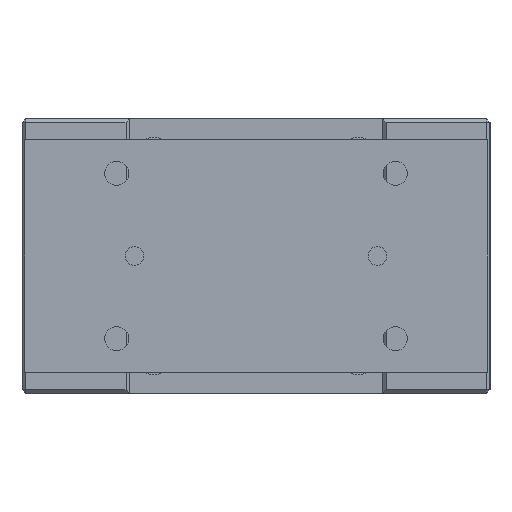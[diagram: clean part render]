
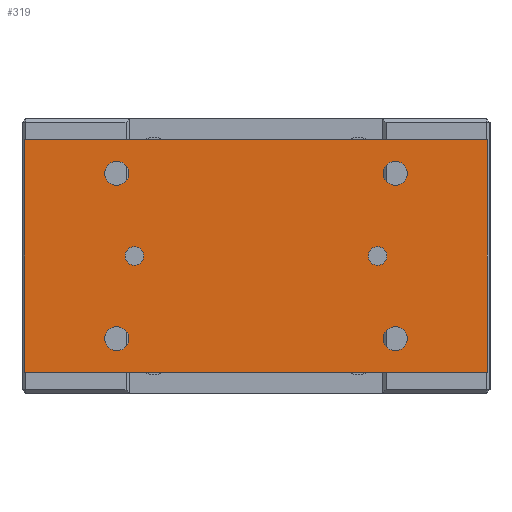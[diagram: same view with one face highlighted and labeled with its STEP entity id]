
A CAD part, left-side view. The second image highlights one B-rep face of the part: STEP entity #319.
In plain terms, the highlighted planar face has unit normal (-1, 0, 0).
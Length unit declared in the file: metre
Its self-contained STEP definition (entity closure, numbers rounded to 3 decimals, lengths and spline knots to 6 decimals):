
#319 = ADVANCED_FACE( '', ( #857, #858, #859, #860, #861, #862, #863 ), #864, .T. );
#857 = FACE_BOUND( '', #1747, .T. );
#858 = FACE_BOUND( '', #1748, .T. );
#859 = FACE_BOUND( '', #1749, .T. );
#860 = FACE_BOUND( '', #1750, .T. );
#861 = FACE_BOUND( '', #1751, .T. );
#862 = FACE_BOUND( '', #1752, .T. );
#863 = FACE_OUTER_BOUND( '', #1753, .T. );
#864 = PLANE( '', #1754 );
#1747 = EDGE_LOOP( '', ( #2711 ) );
#1748 = EDGE_LOOP( '', ( #2712 ) );
#1749 = EDGE_LOOP( '', ( #2713 ) );
#1750 = EDGE_LOOP( '', ( #2714 ) );
#1751 = EDGE_LOOP( '', ( #2715 ) );
#1752 = EDGE_LOOP( '', ( #2716 ) );
#1753 = EDGE_LOOP( '', ( #2717, #2718, #2719, #2720 ) );
#1754 = AXIS2_PLACEMENT_3D( '', #2721, #2722, #2723 );
#2711 = ORIENTED_EDGE( '', *, *, #4377, .F. );
#2712 = ORIENTED_EDGE( '', *, *, #4378, .T. );
#2713 = ORIENTED_EDGE( '', *, *, #4379, .F. );
#2714 = ORIENTED_EDGE( '', *, *, #4380, .F. );
#2715 = ORIENTED_EDGE( '', *, *, #4381, .F. );
#2716 = ORIENTED_EDGE( '', *, *, #4382, .F. );
#2717 = ORIENTED_EDGE( '', *, *, #4383, .T. );
#2718 = ORIENTED_EDGE( '', *, *, #4384, .T. );
#2719 = ORIENTED_EDGE( '', *, *, #4385, .T. );
#2720 = ORIENTED_EDGE( '', *, *, #4386, .T. );
#2721 = CARTESIAN_POINT( '', ( -0.143, -0.1245, -0.0115 ) );
#2722 = DIRECTION( '', ( -1., 0., 0. ) );
#2723 = DIRECTION( '', ( 0., 0., 1. ) );
#4377 = EDGE_CURVE( '', #5086, #5086, #5087, .T. );
#4378 = EDGE_CURVE( '', #5088, #5088, #5089, .T. );
#4379 = EDGE_CURVE( '', #5090, #5090, #5091, .T. );
#4380 = EDGE_CURVE( '', #5092, #5092, #5093, .T. );
#4381 = EDGE_CURVE( '', #5094, #5094, #5095, .T. );
#4382 = EDGE_CURVE( '', #5096, #5096, #5097, .T. );
#4383 = EDGE_CURVE( '', #5098, #5099, #5100, .T. );
#4384 = EDGE_CURVE( '', #5099, #5101, #5102, .T. );
#4385 = EDGE_CURVE( '', #5101, #5103, #5104, .T. );
#4386 = EDGE_CURVE( '', #5103, #5098, #5105, .T. );
#5086 = VERTEX_POINT( '', #6060 );
#5087 = CIRCLE( '', #6061, 0.005 );
#5088 = VERTEX_POINT( '', #6062 );
#5089 = CIRCLE( '', #6063, 0.005 );
#5090 = VERTEX_POINT( '', #6064 );
#5091 = CIRCLE( '', #6065, 0.0065 );
#5092 = VERTEX_POINT( '', #6066 );
#5093 = CIRCLE( '', #6067, 0.0065 );
#5094 = VERTEX_POINT( '', #6068 );
#5095 = CIRCLE( '', #6069, 0.0065 );
#5096 = VERTEX_POINT( '', #6070 );
#5097 = CIRCLE( '', #6071, 0.0065 );
#5098 = VERTEX_POINT( '', #6072 );
#5099 = VERTEX_POINT( '', #6073 );
#5100 = LINE( '', #6074, #6075 );
#5101 = VERTEX_POINT( '', #6076 );
#5102 = LINE( '', #6077, #6078 );
#5103 = VERTEX_POINT( '', #6079 );
#5104 = LINE( '', #6080, #6081 );
#5105 = LINE( '', #6082, #6083 );
#6060 = CARTESIAN_POINT( '', ( -0.143, -0.0705, -0.074 ) );
#6061 = AXIS2_PLACEMENT_3D( '', #7410, #7411, #7412 );
#6062 = CARTESIAN_POINT( '', ( -0.143, 0.0705, -0.074 ) );
#6063 = AXIS2_PLACEMENT_3D( '', #7413, #7414, #7415 );
#6064 = CARTESIAN_POINT( '', ( -0.143, -0.075, -0.112 ) );
#6065 = AXIS2_PLACEMENT_3D( '', #7416, #7417, #7418 );
#6066 = CARTESIAN_POINT( '', ( -0.143, 0.075, -0.112 ) );
#6067 = AXIS2_PLACEMENT_3D( '', #7419, #7420, #7421 );
#6068 = CARTESIAN_POINT( '', ( -0.143, -0.075, -0.023 ) );
#6069 = AXIS2_PLACEMENT_3D( '', #7422, #7423, #7424 );
#6070 = CARTESIAN_POINT( '', ( -0.143, 0.075, -0.023 ) );
#6071 = AXIS2_PLACEMENT_3D( '', #7425, #7426, #7427 );
#6072 = CARTESIAN_POINT( '', ( -0.143, -0.1245, -0.1365 ) );
#6073 = CARTESIAN_POINT( '', ( -0.143, -0.1245, -0.0115 ) );
#6074 = CARTESIAN_POINT( '', ( -0.143, -0.1245, -0.1365 ) );
#6075 = VECTOR( '', #7428, 1. );
#6076 = CARTESIAN_POINT( '', ( -0.143, 0.1245, -0.0115 ) );
#6077 = CARTESIAN_POINT( '', ( -0.143, -0.1245, -0.0115 ) );
#6078 = VECTOR( '', #7429, 1. );
#6079 = CARTESIAN_POINT( '', ( -0.143, 0.1245, -0.1365 ) );
#6080 = CARTESIAN_POINT( '', ( -0.143, 0.1245, -0.0115 ) );
#6081 = VECTOR( '', #7430, 1. );
#6082 = CARTESIAN_POINT( '', ( -0.143, 0.1245, -0.1365 ) );
#6083 = VECTOR( '', #7431, 1. );
#7410 = CARTESIAN_POINT( '', ( -0.143, -0.0655, -0.074 ) );
#7411 = DIRECTION( '', ( -1., 0., 0. ) );
#7412 = DIRECTION( '', ( 0., -1., 0. ) );
#7413 = CARTESIAN_POINT( '', ( -0.143, 0.0655, -0.074 ) );
#7414 = DIRECTION( '', ( 1., 0., 0. ) );
#7415 = DIRECTION( '', ( 0., 1., 0. ) );
#7416 = CARTESIAN_POINT( '', ( -0.143, -0.075, -0.1185 ) );
#7417 = DIRECTION( '', ( -1., 0., 0. ) );
#7418 = DIRECTION( '', ( 0., 0., 1. ) );
#7419 = CARTESIAN_POINT( '', ( -0.143, 0.075, -0.1185 ) );
#7420 = DIRECTION( '', ( -1., 0., 0. ) );
#7421 = DIRECTION( '', ( 0., 0., 1. ) );
#7422 = CARTESIAN_POINT( '', ( -0.143, -0.075, -0.0295 ) );
#7423 = DIRECTION( '', ( -1., 0., 0. ) );
#7424 = DIRECTION( '', ( 0., 0., 1. ) );
#7425 = CARTESIAN_POINT( '', ( -0.143, 0.075, -0.0295 ) );
#7426 = DIRECTION( '', ( -1., 0., 0. ) );
#7427 = DIRECTION( '', ( 0., 0., 1. ) );
#7428 = DIRECTION( '', ( 0., 0., 1. ) );
#7429 = DIRECTION( '', ( 0., 1., 0. ) );
#7430 = DIRECTION( '', ( 0., 0., -1. ) );
#7431 = DIRECTION( '', ( 0., -1., 0. ) );
